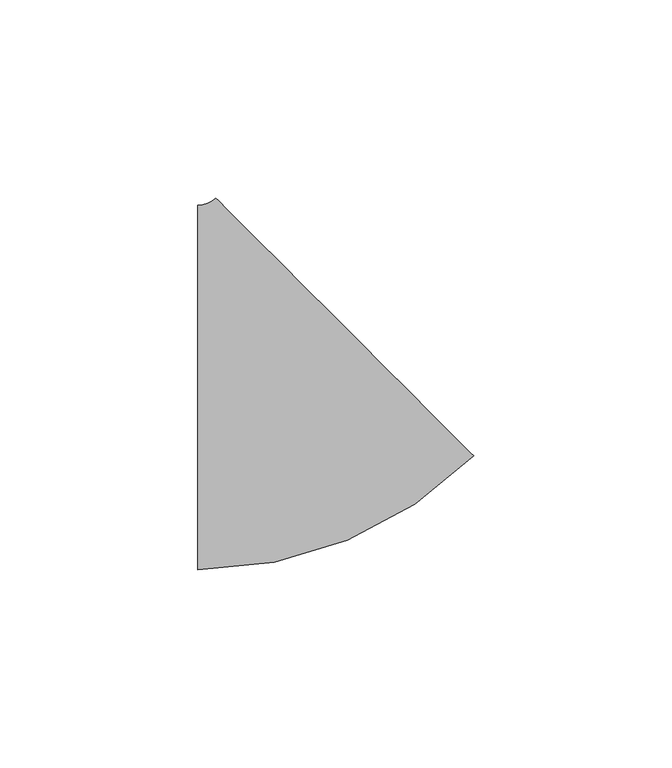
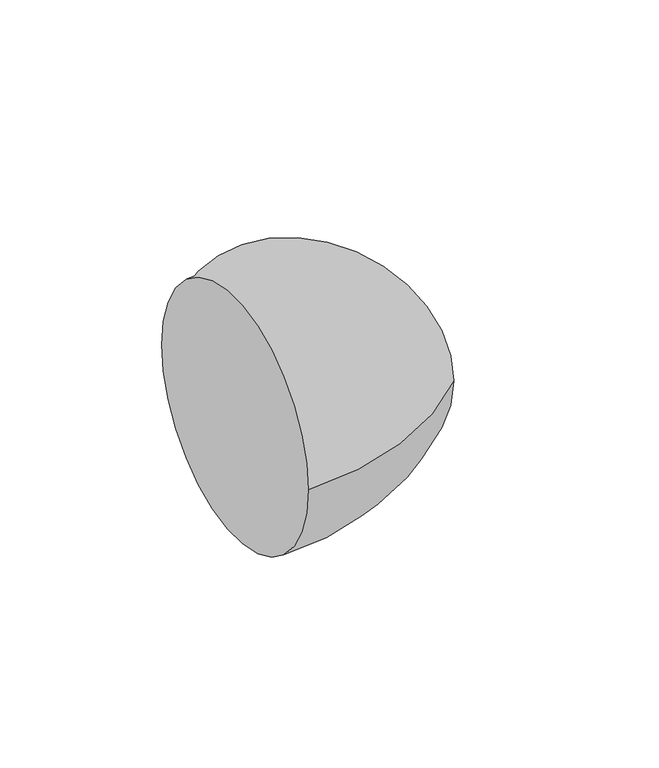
"""IFC4 building model written with IfcOpenShell, lengths in millimetres: pipe fitting geometry, M_Codo - Genérico : Estándar."""

import ifcopenshell
import ifcopenshell.guid

model = None  # the IFC model being written
_history = None  # IfcOwnerHistory: only IFC2X3 demands one
_inside = {}  # id of a spatial element -> (the spatial element, [elements in it])
_under = {}  # id of a project, library or spatial element -> (it, [spatial elements below it])
_declared = {}  # id of a project -> (the project, [libraries it declares])
_typed = {}  # id of a type object -> (the type object, [elements of that type])
_made_of = {}  # id of a material, layer set ... -> (it, [elements and type objects made of it])


def new_model(schema):
    """Start an empty IFC model of exactly this schema.

    Asked for "IFC4X3", IfcOpenShell would pick the latest addendum, in which some entities
    have other attributes; the version numbers below select the first issue.
    IFC2X3 requires an IfcOwnerHistory on every rooted entity: one is made here for all.
    """
    global model, _history
    if schema == "IFC4X3":
        model = ifcopenshell.file(schema_version=(4, 3, 0, 0))
    else:
        model = ifcopenshell.file(schema=schema)
    _inside.clear()
    _under.clear()
    _declared.clear()
    _typed.clear()
    _made_of.clear()
    _history = None
    if model.schema == "IFC2X3":
        org = make("IfcOrganization", Name="unknown")
        user = make(
            "IfcPersonAndOrganization",
            ThePerson=make("IfcPerson", FamilyName="unknown"),
            TheOrganization=org,
        )
        app = make(
            "IfcApplication",
            ApplicationDeveloper=org,
            Version="unknown",
            ApplicationFullName="unknown",
            ApplicationIdentifier="unknown",
        )
        _history = make(
            "IfcOwnerHistory",
            OwningUser=user,
            OwningApplication=app,
            ChangeAction="ADDED",
            CreationDate=0,
        )
    return model


def make(cls, **values):
    """One entity of the class cls with the attributes given. An attribute that is None is left unset."""
    return model.create_entity(
        cls, **{name: value for name, value in values.items() if value is not None}
    )


def rooted(cls, **values):
    """An entity with a GlobalId (a new one), such as an element, a storey or a relation."""
    return make(cls, GlobalId=ifcopenshell.guid.new(), OwnerHistory=_history, **values)


def si_unit(unit_type, name, prefix=None):
    """IfcSIUnit, for example si_unit("LENGTHUNIT", "METRE", prefix="MILLI")."""
    return make("IfcSIUnit", UnitType=unit_type, Prefix=prefix, Name=name)


def assignment(units):
    """IfcUnitAssignment: the units of a project."""
    return None if units is None else make("IfcUnitAssignment", Units=units)


def point(xyz):
    """IfcCartesianPoint."""
    return None if xyz is None else make("IfcCartesianPoint", Coordinates=xyz)


def direction(xyz):
    """IfcDirection."""
    return None if xyz is None else make("IfcDirection", DirectionRatios=xyz)


def frame(location, z_axis=None, x_axis=None):
    """IfcAxis2Placement3D, a coordinate frame: its origin and axes. An axis left out is left unset."""
    return make(
        "IfcAxis2Placement3D",
        Location=point(location),
        Axis=direction(z_axis),
        RefDirection=direction(x_axis),
    )


def origin():
    """The frame at (0, 0, 0) with its axes left unset."""
    return frame((0.0, 0.0, 0.0))


def place(relative_to, where):
    """IfcLocalPlacement: puts the frame where relative to a parent placement (None: the world)."""
    return make(
        "IfcLocalPlacement", PlacementRelTo=relative_to, RelativePlacement=where
    )


def context(
    kind, dimensions, precision=None, world=None, true_north=None, identifier=None
):
    """IfcGeometricRepresentationContext, for example the 3D "Model" context."""
    return make(
        "IfcGeometricRepresentationContext",
        ContextIdentifier=identifier,
        ContextType=kind,
        CoordinateSpaceDimension=dimensions,
        Precision=precision,
        WorldCoordinateSystem=world,
        TrueNorth=true_north,
    )


def project(units=None, contexts=None):
    """IfcProject with its units and contexts."""
    return rooted(
        "IfcProject",
        Name="project",
        RepresentationContexts=contexts,
        UnitsInContext=assignment(units),
    )


def spatial(cls, under=None, at=None, **own):
    """A site, building, storey or space (cls), placed at a placement, below another one or the project."""
    s = rooted(cls, ObjectPlacement=at, **own)
    if under is not None:
        _under.setdefault(under.id(), (under, []))[1].append(s)
    return s


def circle_curve(where, radius):
    """IfcCircle in the frame where."""
    return make("IfcCircle", Position=where, Radius=radius)


def ellipse_curve(where, semi_axis1, semi_axis2):
    """IfcEllipse in the frame where."""
    return make(
        "IfcEllipse", Position=where, SemiAxis1=semi_axis1, SemiAxis2=semi_axis2
    )


def trimmed(basis, trim1, trim2, sense, master):
    """IfcTrimmedCurve: the piece of a basis curve between two trims."""
    return make(
        "IfcTrimmedCurve",
        BasisCurve=basis,
        Trim1=trim1,
        Trim2=trim2,
        SenseAgreement=sense,
        MasterRepresentation=master,
    )


def shape(context_of_items, identifier, shape_type, items):
    """IfcShapeRepresentation: the items that make up one representation, for example the "Body"."""
    return make(
        "IfcShapeRepresentation",
        ContextOfItems=context_of_items,
        RepresentationIdentifier=identifier,
        RepresentationType=shape_type,
        Items=items,
    )


def source(mapping_origin, context_of_items, identifier, shape_type, items):
    """IfcRepresentationMap: a shape defined once, which mapped items show again and again."""
    return make(
        "IfcRepresentationMap",
        MappingOrigin=mapping_origin,
        MappedRepresentation=shape(context_of_items, identifier, shape_type, items),
    )


def transform(
    local_origin,
    x_axis=None,
    y_axis=None,
    z_axis=None,
    scale=None,
    scale2=None,
    scale3=None,
    uniform=True,
):
    """IfcCartesianTransformationOperator3D, or its non-uniform kind. x_axis, y_axis, z_axis: its Axis1, 2, 3."""
    if uniform:
        return make(
            "IfcCartesianTransformationOperator3D",
            Axis1=direction(x_axis),
            Axis2=direction(y_axis),
            LocalOrigin=point(local_origin),
            Scale=scale,
            Axis3=direction(z_axis),
        )
    return make(
        "IfcCartesianTransformationOperator3DnonUniform",
        Axis1=direction(x_axis),
        Axis2=direction(y_axis),
        LocalOrigin=point(local_origin),
        Scale=scale,
        Axis3=direction(z_axis),
        Scale2=scale2,
        Scale3=scale3,
    )


def mapped(mapping_source, mapping_target):
    """IfcMappedItem: shows the shape of a source again, moved by a transform."""
    return make(
        "IfcMappedItem", MappingSource=mapping_source, MappingTarget=mapping_target
    )


def made_of(thing, what):
    """Note that an element or type object is made of a material, layer set ...; save() writes the relation."""
    if what is not None:
        _made_of.setdefault(what.id(), (what, []))[1].append(thing)
    return thing


def element(
    cls,
    number,
    at=None,
    inside=None,
    cuts=None,
    type_object=None,
    material=None,
    context=None,
    identifier="Body",
    shape_type=None,
    held_by="IfcProductDefinitionShape",
    body=None,
    shapes=None,
    **own,
):
    """One element of the class cls, such as IfcWall. Its Tag is "e" and its number.

    at: its placement. inside: the storey or other place that contains it. cuts: it is an
    opening in that element (IfcRelVoidsElement). A single representation is given by context,
    identifier, shape_type and body (its items); several are given by shapes. held_by: the class
    of the entity that holds the representations. save() writes the other relations.
    """
    e = rooted(cls, Tag="e%d" % number, ObjectPlacement=at, **own)
    if body is not None:
        shapes = [shape(context, identifier, shape_type, body)]
    if shapes is not None:
        e.Representation = make(held_by, Representations=shapes)
    if inside is not None:
        _inside.setdefault(inside.id(), (inside, []))[1].append(e)
    if cuts is not None:
        rooted(
            "IfcRelVoidsElement", RelatingBuildingElement=cuts, RelatedOpeningElement=e
        )
    if type_object is not None:
        _typed.setdefault(type_object.id(), (type_object, []))[1].append(e)
    return made_of(e, material)


def aggregate(whole, parts):
    """IfcRelAggregates: a whole, such as a stair, and the parts it consists of."""
    return rooted("IfcRelAggregates", RelatingObject=whole, RelatedObjects=parts)


def save(model, path):
    """Write the relations noted so far, then the file.

    IfcRelAggregates (storeys below a building ...), IfcRelContainedInSpatialStructure (elements
    in a storey), IfcRelDefinesByType, IfcRelAssociatesMaterial and IfcRelDeclares: one each for
    every whole, place, type object, material and project.
    """
    for whole, parts in _under.values():
        aggregate(whole, parts)
    for where, things in _inside.values():
        rooted(
            "IfcRelContainedInSpatialStructure",
            RelatedElements=things,
            RelatingStructure=where,
        )
    for kind, things in _typed.values():
        rooted("IfcRelDefinesByType", RelatedObjects=things, RelatingType=kind)
    for what, things in _made_of.values():
        rooted("IfcRelAssociatesMaterial", RelatedObjects=things, RelatingMaterial=what)
    for by, libraries in _declared.values():
        rooted("IfcRelDeclares", RelatingContext=by, RelatedDefinitions=libraries)
    model.write(path)


def plane_surface(at):
    """IfcPlane: the flat surface through the origin of the frame at, square to its z axis."""
    return make("IfcPlane", Position=at)


def revolved_surface(curve, axis_point, axis_direction):
    """IfcSurfaceOfRevolution: the curve turned about the line through axis_point along axis_direction."""
    return make(
        "IfcSurfaceOfRevolution",
        SweptCurve=make("IfcArbitraryOpenProfileDef", ProfileType="CURVE", Curve=curve),
        AxisPosition=make("IfcAxis1Placement", Location=point(axis_point), Axis=direction(axis_direction)),
    )


def advanced_brep(points, edges, surfaces, faces):
    """IfcAdvancedBrep: a solid bounded by faces that lie on surfaces and meet in shared edges.

    An edge is (start, end): straight between two places in points (the first is 0);
    or (start, end, curve); or (start, end, curve, False) where it runs against its curve.
    A face is (place in surfaces, loops), or (place, loops, False) where it looks against
    its surface's normal. A loop lists edges by number (the first is 1), with a minus sign
    where the edge is run from its end to its start. The first loop is the outer one.
    """
    corners = [point(p) for p in points]
    vertices = [make("IfcVertexPoint", VertexGeometry=c) for c in corners]
    made = []
    for start, end, *more in edges:
        made.append(
            make(
                "IfcEdgeCurve",
                EdgeStart=vertices[start],
                EdgeEnd=vertices[end],
                EdgeGeometry=more[0] if more else make("IfcPolyline", Points=[corners[start], corners[end]]),
                SameSense=more[1] if len(more) > 1 else True,
            )
        )
    hull = []
    for where, loops, *sense in faces:
        bounds = []
        for j, loop in enumerate(loops):
            ring = [make("IfcOrientedEdge", EdgeElement=made[abs(k) - 1], Orientation=k > 0) for k in loop]
            bounds.append(
                make(
                    "IfcFaceOuterBound" if j == 0 else "IfcFaceBound",
                    Bound=make("IfcEdgeLoop", EdgeList=ring),
                    Orientation=True,
                )
            )
        hull.append(make("IfcAdvancedFace", Bounds=bounds, FaceSurface=surfaces[where], SameSense=sense[0] if sense else True))
    return make("IfcAdvancedBrep", Outer=make("IfcClosedShell", CfsFaces=hull))


def pipe_fitting_2586d89a(model_context):
    return source(origin(), model_context, "Body", "AdvancedBrep", [
        advanced_brep(
        [(-21.6985905, -46.0375, 0.0), (-21.6985905, 46.0375, 0.0), (47.8960755, -17.2118039, 0.0), (-17.208612, 47.8972223, 0.0)],
        [
            (0, 1, circle_curve(frame((-21.6985905, 0.0, 0.0), z_axis=(-1.0, 0.0, 0.0), x_axis=(0.0, 1.0, 0.0)), 46.0375)),
            (1, 0, circle_curve(frame((-21.6985905, 0.0, 0.0), z_axis=(-1.0, 0.0, 0.0), x_axis=(0.0, 1.0, 0.0)), 46.0375)),
            (2, 3, circle_curve(frame((15.3437317, 15.3427092, 0.0), z_axis=(0.7071303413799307, 0.7070832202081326, 0.0), x_axis=(-0.7070832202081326, 0.7071303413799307, 0.0)), 46.0375)),
            (3, 2, circle_curve(frame((15.3437317, 15.3427092, 0.0), z_axis=(0.7071303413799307, 0.7070832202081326, 0.0), x_axis=(-0.7070832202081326, 0.7071303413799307, 0.0)), 46.0375)),
            (3, 1, circle_curve(frame((-21.6985905, 52.3875, 0.0), z_axis=(0.0, 0.0, -1.0), x_axis=(0.0, -1.0, 0.0)), 6.35)),
            (0, 2, circle_curve(frame((-21.6985905, 52.3875, 0.0), z_axis=(0.0, 0.0, 1.0), x_axis=(0.0, -1.0, 0.0)), 98.425)),
        ],
        [
            plane_surface(frame((-21.6985905, 0.0, 0.0), z_axis=(-1.0, 0.0, 0.0), x_axis=(0.0, 0.0, 1.0))),
            plane_surface(frame((15.3437317, 15.3427092, 0.0), z_axis=(0.7071303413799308, 0.7070832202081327, 0.0), x_axis=(0.0, 0.0, 1.0))),
            revolved_surface(trimmed(ellipse_curve(frame((-21.6985905, 0.0, 0.0), z_axis=(-1.0, 0.0, 0.0), x_axis=(0.0, 1.0, 0.0)), 46.0375, 46.0375), [point((-21.6985905, -46.0375, 0.0))], [point((-21.6985905, 46.0375, 0.0))], True, "CARTESIAN"), (-21.6985905, 52.3875, 0.0), (0.0, 0.0, 1.0)),
            revolved_surface(trimmed(ellipse_curve(frame((-21.6985905, 0.0, 0.0), z_axis=(-1.0, 0.0, 0.0), x_axis=(0.0, 1.0, 0.0)), 46.0375, 46.0375), [point((-21.6985905, 46.0375, 0.0))], [point((-21.6985905, -46.0375, 0.0))], True, "CARTESIAN"), (-21.6985905, 52.3875, 0.0), (0.0, 0.0, 1.0)),
        ],
        [
            (0, [[1, 2]]),
            (1, [[3, 4]]),
            (2, [[5, -1, 6, -4]]),
            (3, [[-6, -2, -5, -3]]),
        ],
    ),
    ])


if __name__ == "__main__":
    model = new_model("IFC4")
    model_context = context("Model", 3, world=origin())
    ifc_project = project(units=[si_unit("LENGTHUNIT", "METRE", prefix="MILLI")], contexts=[model_context])
    site = spatial("IfcSite", under=ifc_project)
    building = spatial("IfcBuilding", under=site)
    placement = place(None, origin())
    pipe_fitting_shape = pipe_fitting_2586d89a(model_context)
    element("IfcPipeFitting", 1, ObjectType="M_Codo - Genérico : Estándar", at=placement, inside=building, context=model_context, shape_type="MappedRepresentation", body=[
        mapped(pipe_fitting_shape, transform((0.0, 0.0, 0.0), x_axis=(1.0, 0.0, 0.0), y_axis=(0.0, 1.0, 0.0), z_axis=(0.0, 0.0, 1.0))),
    ])
    save(model, "model.ifc")
